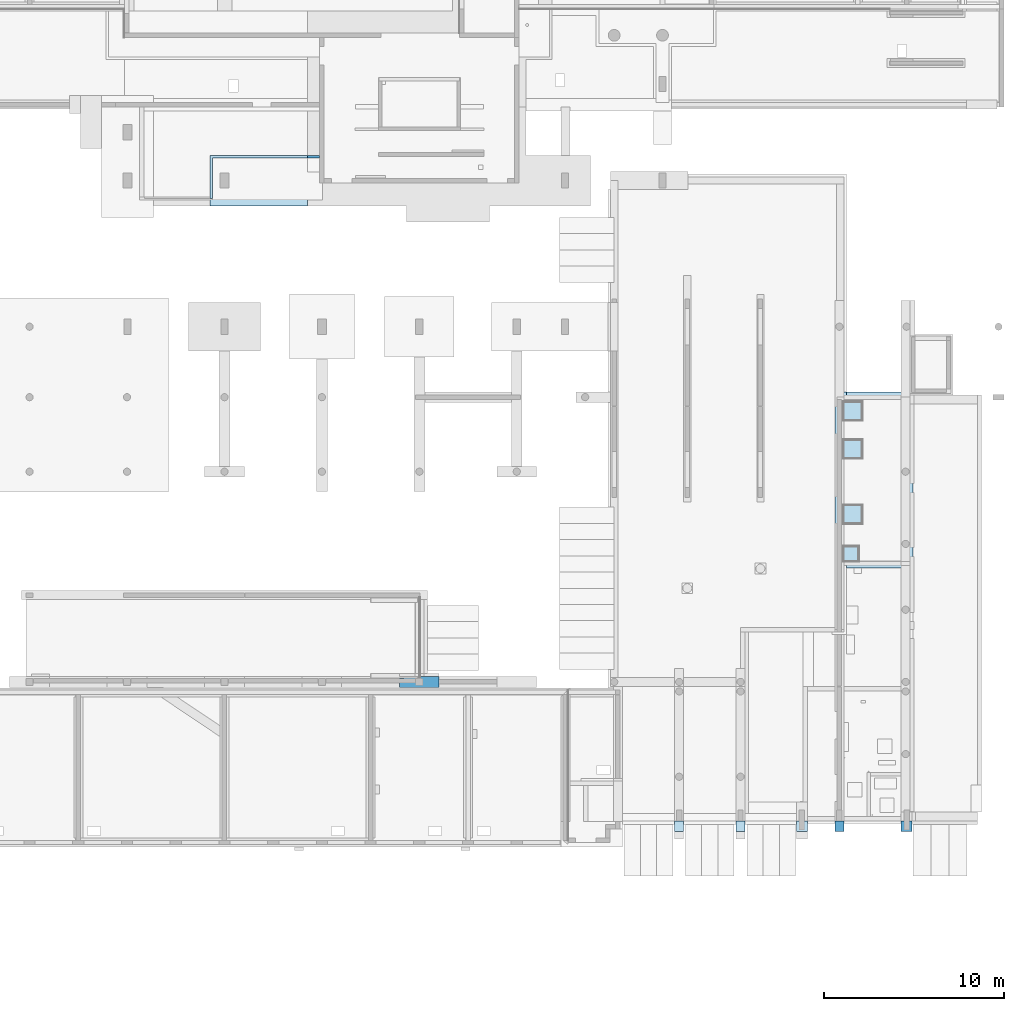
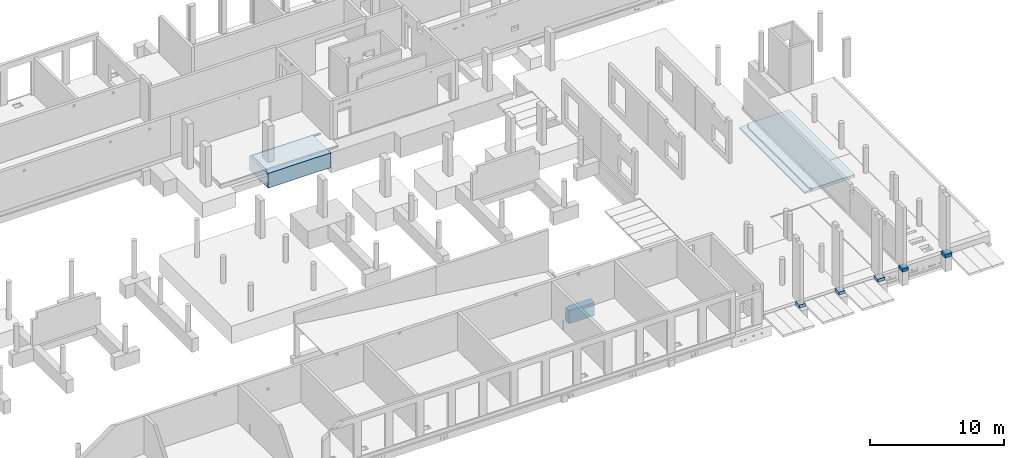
# One storey, part 37 of 60: 9 slabs.
"""IFC2X3 building model written with IfcOpenShell, lengths in millimetres."""

from ifc_helpers import new_model, entity, si_unit, converted_unit, derived_unit, direction, frame, frame_2d, origin, origin_2d_with_axis, place, context, subcontext, project, spatial, rectangle, extrude, faceted_brep, material, layer, layer_set, layer_usage, element, save


model = new_model("IFC2X3")

# Units and contexts
model_context = context("Model", 3, precision=0.01, world=origin(), true_north=direction((6.12303176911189e-17, 1.0)))
body_context = subcontext(model_context, "Body", "Model", "MODEL_VIEW")
ifc_project = project(units=[si_unit("LENGTHUNIT", "METRE", prefix="MILLI"), si_unit("AREAUNIT", "SQUARE_METRE"), si_unit("VOLUMEUNIT", "CUBIC_METRE"), converted_unit("PLANEANGLEUNIT", "DEGREE", entity("IfcRatioMeasure", 0.0174532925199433), si_unit("PLANEANGLEUNIT", "RADIAN"), dimensions=[0, 0, 0, 0, 0, 0, 0]), si_unit("MASSUNIT", "GRAM", prefix="KILO"), derived_unit("MASSDENSITYUNIT", [(si_unit("MASSUNIT", "GRAM", prefix="KILO"), 1), (si_unit("LENGTHUNIT", "METRE"), -3)]), si_unit("TIMEUNIT", "SECOND"), si_unit("FREQUENCYUNIT", "HERTZ"), si_unit("THERMODYNAMICTEMPERATUREUNIT", "DEGREE_CELSIUS"), derived_unit("THERMALTRANSMITTANCEUNIT", [(si_unit("MASSUNIT", "GRAM", prefix="KILO"), 1), (si_unit("THERMODYNAMICTEMPERATUREUNIT", "KELVIN"), -1), (si_unit("TIMEUNIT", "SECOND"), -3)]), derived_unit("VOLUMETRICFLOWRATEUNIT", [(si_unit("LENGTHUNIT", "METRE"), 3), (si_unit("TIMEUNIT", "SECOND"), -1)]), si_unit("ELECTRICCURRENTUNIT", "AMPERE"), si_unit("ELECTRICVOLTAGEUNIT", "VOLT"), si_unit("POWERUNIT", "WATT"), si_unit("FORCEUNIT", "NEWTON", prefix="KILO"), si_unit("ILLUMINANCEUNIT", "LUX"), si_unit("LUMINOUSFLUXUNIT", "LUMEN"), si_unit("LUMINOUSINTENSITYUNIT", "CANDELA"), derived_unit("USERDEFINED", [(si_unit("MASSUNIT", "GRAM", prefix="KILO"), -1), (si_unit("LENGTHUNIT", "METRE"), -2), (si_unit("TIMEUNIT", "SECOND"), 3), (si_unit("LUMINOUSFLUXUNIT", "LUMEN"), 1)]), derived_unit("LINEARVELOCITYUNIT", [(si_unit("LENGTHUNIT", "METRE"), 1), (si_unit("TIMEUNIT", "SECOND"), -1)]), si_unit("PRESSUREUNIT", "PASCAL"), derived_unit("USERDEFINED", [(si_unit("LENGTHUNIT", "METRE"), -2), (si_unit("MASSUNIT", "GRAM", prefix="KILO"), 1), (si_unit("TIMEUNIT", "SECOND"), -2)])], contexts=[model_context])

# Site, building, storey
site_placement = place(None, origin())
site = spatial("IfcSite", under=ifc_project, at=site_placement, Name="Default", CompositionType="ELEMENT")
building_placement = place(site_placement, origin())
building = spatial("IfcBuilding", under=site, at=building_placement, Name="niet gebruiken", CompositionType="ELEMENT")
storey_placement = place(building_placement, origin())
storey = spatial("IfcBuildingStorey", under=building, at=storey_placement, Name="00 begane grond", CompositionType="ELEMENT", Elevation=0.0)

# Slabs
ifc_material = material(Name="NLRS_f2_beton ihwg")
slab_1_placement = place(storey_placement, frame((90700.0, 8896.0, -1400.0)))
element("IfcSlab", 1, at=slab_1_placement, inside=storey, material=ifc_material, Name="NLRS_16.13_SFO_LB_fundatiepoer_gen:600x2200x1200", ObjectType="NLRS_16.13_SFO_LB_fundatiepoer_gen:600x2200x1200", PredefinedType="BASESLAB", context=body_context, shape_type="Brep", body=[
    faceted_brep([(0.0, 0.0, 1200.0), (2200.0, 0.0, 1200.0), (2200.0, 600.0, 1200.0), (1350.0, 600.0, 1200.0), (850.0, 600.0, 1200.0), (258.292795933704, 600.0, 1200.0), (258.292795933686, 520.0, 1200.0), (0.0, 520.0, 1200.0), (2200.0, 600.0, 0.0), (2200.0, 0.0, 0.0), (0.0, 0.0, 0.0), (0.0, 600.0, 0.0), (850.0, 600.0, 0.0), (0.0, 600.0, 600.0), (850.0, 600.0, 600.0), (999.999837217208, 600.0, 600.0), (999.999837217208, 600.0, 1104.88293961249), (850.0, 600.0, 1124.11902984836), (2200.0, 600.0, 600.0), (0.0, 0.0, 600.0), (0.0, 520.0, 600.0), (2200.0, 0.0, 600.0), (999.999837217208, 520.0, 1104.88293961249), (999.999837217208, 520.0, 600.0)], [[[0, 1, 2, 3, 4, 5, 6, 7]], [[8, 9, 10, 11, 12]], [[8, 12, 11, 13, 14, 15, 16, 17, 5, 4, 3, 2, 18]], [[11, 10, 19, 0, 7, 20, 13]], [[1, 0, 19, 10, 9, 21]], [[2, 1, 21, 9, 8, 18]], [[22, 23, 20, 7, 6]], [[20, 23, 15, 14, 13]], [[23, 22, 16, 15]], [[22, 6, 5, 17, 16]]]),
])
slab_2_placement = place(storey_placement, origin())
element("IfcSlab", 2, at=slab_2_placement, inside=storey, Name="Floor:NLRS_13.22_FL_beton ihwg d=250_gen", ObjectType="Floor:NLRS_13.22_FL_beton ihwg d=250_gen", PredefinedType="BASESLAB", context=body_context, shape_type="Brep", body=[
    faceted_brep([(119150.0, 25251.0, -2000.0), (119150.0, 15496.0, -2000.0), (114825.0, 15496.0, -2000.0), (114825.0, 25251.0, -2000.0), (119150.0, 15496.0, -1750.0), (119150.0, 25251.0, -1750.0), (115475.0, 25251.0, -1750.0), (115475.0, 25101.0, -1750.0), (115475.0, 24926.0, -1750.0), (115325.0, 24926.0, -1750.0), (115325.0, 24851.0, -1750.0), (115325.0, 15896.0, -1750.0), (115325.0, 15646.0, -1750.0), (115475.0, 15646.0, -1750.0), (115475.0, 15496.0, -1750.0), (115475.0, 15496.0, -1850.0), (114825.0, 15496.0, -1850.0), (114825.0, 25251.0, -1850.0), (115475.0, 25251.0, -1850.0), (115325.0, 24926.0, -1850.0), (115475.0, 24926.0, -1850.0), (115475.0, 15646.0, -1850.0), (115325.0, 15646.0, -1850.0)], [[[0, 1, 2, 3]], [[4, 5, 6, 7, 8, 9, 10, 11, 12, 13, 14]], [[1, 0, 5, 4]], [[2, 1, 4, 14, 15, 16]], [[3, 2, 16, 17]], [[0, 3, 17, 18, 6, 5]], [[19, 20, 18, 17, 16, 15, 21, 22]], [[21, 15, 14, 13]], [[18, 20, 8, 7, 6]], [[20, 19, 9, 8]], [[19, 22, 12, 11, 10, 9]], [[22, 21, 13, 12]]]),
])
ifc_layer_1 = layer(ifc_material, 250.0)
ifc_layer_set_1 = layer_set([ifc_layer_1], Name="Floor:NLRS_23.21_FL_beton ihwg d=250_gen")
ifc_layer_usage_1 = layer_usage(ifc_layer_set_1, "AXIS3", "POSITIVE", 0.0)
slab_3_placement = place(storey_placement, origin())
element("IfcSlab", 3, at=slab_3_placement, inside=storey, material=ifc_layer_usage_1, Name="Floor:NLRS_23.21_FL_beton ihwg d=250_gen", ObjectType="Floor:NLRS_23.21_FL_beton ihwg d=250_gen", PredefinedType="FLOOR", context=body_context, shape_type="SweptSolid", body=[
    extrude(rectangle(XDim=600.000000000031, YDim=499.99999999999, at=frame_2d((0.0, 1.73230318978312e-11), x_axis=(1.0, 0.0))), frame((106200.000370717, 1200.0, -200.0), z_axis=(0.0, 0.0, -1.0), x_axis=(0.0, 1.0, 0.0)), (0.0, 0.0, 1.0), 250.0),
])
ifc_layer_usage_2 = layer_usage(ifc_layer_set_1, "AXIS3", "POSITIVE", 0.0)
slab_4_placement = place(storey_placement, origin())
element("IfcSlab", 4, at=slab_4_placement, inside=storey, material=ifc_layer_usage_2, Name="Floor:NLRS_23.21_FL_beton ihwg d=250_gen", ObjectType="Floor:NLRS_23.21_FL_beton ihwg d=250_gen", PredefinedType="FLOOR", context=body_context, shape_type="SweptSolid", body=[
    extrude(rectangle(XDim=600.00000000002, YDim=499.99999999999, at=origin_2d_with_axis()), frame((109600.000370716, 1200.0, -200.0), z_axis=(0.0, 0.0, -1.0), x_axis=(0.0, 1.0, 0.0)), (0.0, 0.0, 1.0), 250.0),
])
ifc_layer_usage_3 = layer_usage(ifc_layer_set_1, "AXIS3", "POSITIVE", 0.0)
slab_5_placement = place(storey_placement, origin())
element("IfcSlab", 5, at=slab_5_placement, inside=storey, material=ifc_layer_usage_3, Name="Floor:NLRS_23.21_FL_beton ihwg d=250_gen", ObjectType="Floor:NLRS_23.21_FL_beton ihwg d=250_gen", PredefinedType="FLOOR", context=body_context, shape_type="SweptSolid", body=[
    extrude(rectangle(XDim=599.999999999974, YDim=599.999947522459, at=origin_2d_with_axis()), frame((113000.000396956, 1200.0, -200.0), z_axis=(0.0, 0.0, -1.0), x_axis=(0.0, 1.0, 0.0)), (0.0, 0.0, 1.0), 250.0),
])
ifc_layer_2 = layer(ifc_material, 300.0)
ifc_layer_set_2 = layer_set([ifc_layer_2], Name="Floor:NLRS_13.22_FL_beton ihwg d=300_gen")
ifc_layer_usage_4 = layer_usage(ifc_layer_set_2, "AXIS3", "POSITIVE", 0.0)
slab_6_placement = place(storey_placement, origin())
element("IfcSlab", 6, at=slab_6_placement, inside=storey, material=ifc_layer_usage_4, Name="Floor:NLRS_13.22_FL_beton ihwg d=300_gen", ObjectType="Floor:NLRS_13.22_FL_beton ihwg d=300_gen", PredefinedType="BASESLAB", context=body_context, shape_type="SweptSolid", body=[
    extrude(rectangle(XDim=599.999999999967, YDim=499.99999999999, at=origin_2d_with_axis()), frame((115075.0, 1200.0, 0.0), z_axis=(0.0, 0.0, -1.0), x_axis=(0.0, 1.0, 0.0)), (0.0, 0.0, 1.0), 300.0),
])
ifc_layer_usage_5 = layer_usage(ifc_layer_set_2, "AXIS3", "POSITIVE", 0.0)
slab_7_placement = place(storey_placement, origin())
element("IfcSlab", 7, at=slab_7_placement, inside=storey, material=ifc_layer_usage_5, Name="Floor:NLRS_13.22_FL_beton ihwg d=300_gen", ObjectType="Floor:NLRS_13.22_FL_beton ihwg d=300_gen", PredefinedType="BASESLAB", context=body_context, shape_type="SweptSolid", body=[
    extrude(rectangle(XDim=599.999999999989, YDim=600.000000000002, at=origin_2d_with_axis()), frame((118800.0, 1200.0, 0.0), z_axis=(0.0, 0.0, -1.0), x_axis=(0.0, 1.0, 0.0)), (0.0, 0.0, 1.0), 300.0),
])
slab_8_placement = place(storey_placement, origin())
element("IfcSlab", 8, at=slab_8_placement, inside=storey, material=ifc_material, Name="Floor:NLRS_13.22_FL_beton ihwg d=1350_gen", ObjectType="Floor:NLRS_13.22_FL_beton ihwg d=1350_gen", PredefinedType="BASESLAB", context=body_context, shape_type="Brep", body=[
    faceted_brep([(85600.0, 38381.0, -1550.0), (85600.0, 35581.0, -1550.0), (80200.0, 35581.0, -1550.0), (80200.0, 38381.0, -1550.0), (80200.0, 35581.0, -200.0), (85600.0, 35581.0, -200.0), (85600.0, 37456.0, -200.0), (85600.0, 38231.0, -200.0), (80350.0, 38231.0, -200.0), (80350.0, 35976.0, -200.0), (80200.0, 35976.0, -200.0), (80200.0, 35906.0, -200.0), (85600.0, 38381.0, -402.0), (85600.0, 38381.0, -270.0), (85600.0, 38231.0, -270.0), (80200.0, 35581.0, -402.0), (80200.0, 35581.0, -1002.0), (80200.0, 35976.0, -270.0), (80200.0, 36081.0, -270.0), (80200.0, 38381.0, -270.0), (80350.0, 35976.0, -270.0), (80350.0, 38231.0, -270.0)], [[[0, 1, 2, 3]], [[4, 5, 6, 7, 8, 9, 10, 11]], [[1, 0, 12, 13, 14, 7, 6, 5]], [[2, 1, 5, 4, 15, 16]], [[3, 2, 16, 15, 4, 11, 10, 17, 18, 19]], [[0, 3, 19, 13, 12]], [[17, 20, 21, 14, 13, 19, 18]], [[20, 17, 10, 9]], [[21, 20, 9, 8]], [[14, 21, 8, 7]]]),
])
ifc_layer_3 = layer(ifc_material, 132.0)
ifc_layer_set_3 = layer_set([ifc_layer_3], Name="Floor:NLRS_23.21_FL_beton ihwg d=132_gen precies 132")
ifc_layer_usage_6 = layer_usage(ifc_layer_set_3, "AXIS3", "POSITIVE", 0.0)
slab_9_placement = place(storey_placement, origin())
element("IfcSlab", 9, at=slab_9_placement, inside=storey, material=ifc_layer_usage_6, Name="Floor:NLRS_23.21_FL_beton ihwg d=132_gen precies 132", ObjectType="Floor:NLRS_23.21_FL_beton ihwg d=132_gen precies 132", PredefinedType="FLOOR", context=body_context, shape_type="SweptSolid", body=[
    extrude(rectangle(XDim=150.000000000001, YDim=675.000000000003, at=origin_2d_with_axis()), frame((85937.4999999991, 38306.0, -270.0), z_axis=(0.0, 0.0, -1.0), x_axis=(0.0, 1.0, 0.0)), (0.0, 0.0, 1.0), 132.0),
])

save(model, "model.ifc")
